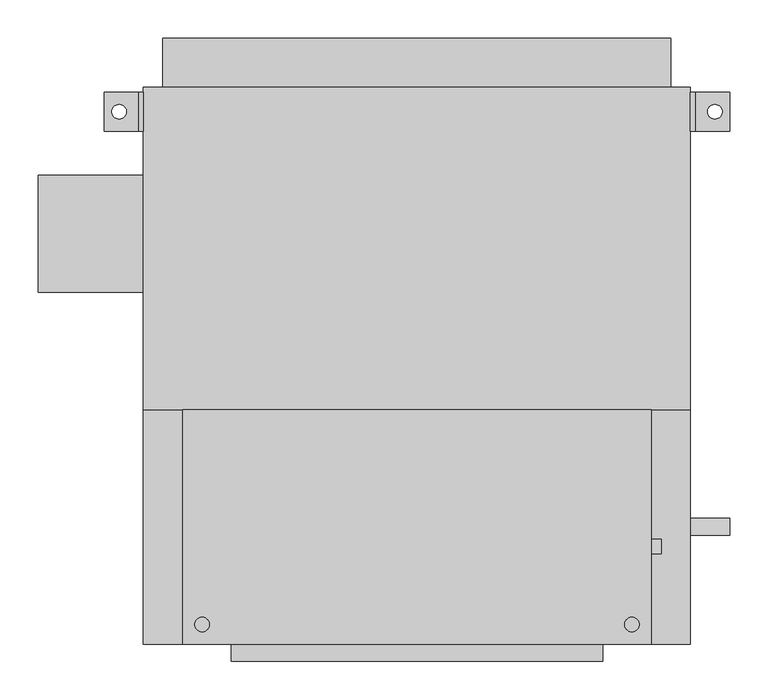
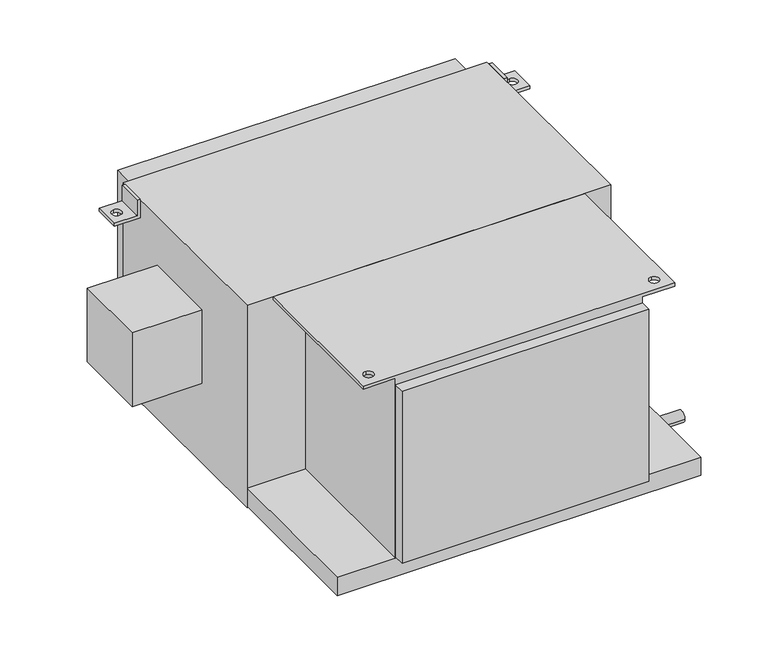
"""IFC4 building model written with IfcOpenShell, lengths in millimetres: proxy geometry, Concealed_High_Capacity_Horizontal_Fan_Coil_Unit_With_Plenum_-_42DCA_-_CARRIER_-_2-Pipe_Cool-EHeat_RH_2022 : Size 08 - 277v/60Hz/1Ph - 6 Row 6.0kW."""

from ifc_helpers import new_model, si_unit, point, frame, frame_2d, origin, place, context, project, spatial, polyline, circle_curve, trimmed, segment, composite_curve, outline, extrude, source, transform, mapped, element, save
from ifc_brep_helpers import plane_surface, revolved_surface, advanced_brep


def mechanical_equipment_869e3af7(model_context):
    return source(origin(), model_context, "Body", "SolidModel", [
        advanced_brep(
        [(-203.2, 327.025, -38.1), (-254.0, 327.025, -38.1), (-254.0, 327.025, -31.75), (-209.55, 327.025, -31.75), (-209.55, 327.025, 0.0), (-203.2, 327.025, 0.0), (-203.2, 276.225, -38.1), (-203.2, 276.225, 0.0), (-209.55, 276.225, 0.0), (-209.55, 276.225, -31.75), (-254.0, 276.225, -31.75), (-254.0, 276.225, -38.1), (-234.95, 292.1, -38.1), (-234.95, 311.15, -38.1), (-234.95, 311.15, -31.75), (-234.95, 292.1, -31.75)],
        [
            (0, 1),
            (1, 2),
            (2, 3),
            (3, 4),
            (4, 5),
            (5, 0),
            (6, 7),
            (7, 8),
            (8, 9),
            (9, 10),
            (10, 11),
            (11, 6),
            (0, 6),
            (11, 1),
            (12, 13, circle_curve(frame((-234.95, 301.625, -38.1), z_axis=(0.0, 0.0, 1.0), x_axis=(0.0, -1.0, 0.0)), 9.525)),
            (13, 12, circle_curve(frame((-234.95, 301.625, -38.1), z_axis=(0.0, 0.0, 1.0), x_axis=(0.0, -1.0, 0.0)), 9.525)),
            (10, 2),
            (9, 3),
            (14, 15, circle_curve(frame((-234.95, 301.625, -31.75), z_axis=(0.0, 0.0, -1.0), x_axis=(0.0, -1.0, 0.0)), 9.525)),
            (15, 14, circle_curve(frame((-234.95, 301.625, -31.75), z_axis=(0.0, 0.0, -1.0), x_axis=(0.0, -1.0, 0.0)), 9.525)),
            (8, 4),
            (7, 5),
            (14, 13),
            (12, 15),
        ],
        [
            plane_surface(frame((-203.2, 327.025, -38.1), z_axis=(0.0, 1.0, 0.0), x_axis=(-1.0, 0.0, 0.0))),
            plane_surface(frame((-203.2, 276.225, -38.1), z_axis=(0.0, -1.0, 0.0), x_axis=(1.0, 0.0, 0.0))),
            plane_surface(frame((-203.2, 327.025, -38.1), z_axis=(0.0, 0.0, -1.0), x_axis=(0.0, -1.0, 0.0))),
            plane_surface(frame((-254.0, 327.025, -38.1), z_axis=(-1.0, 0.0, 0.0), x_axis=(0.0, -1.0, 0.0))),
            plane_surface(frame((-254.0, 327.025, -31.75), z_axis=(0.0, 0.0, 1.0), x_axis=(0.0, -1.0, 0.0))),
            plane_surface(frame((-209.55, 327.025, -31.75), z_axis=(-1.0, 0.0, 0.0), x_axis=(0.0, -1.0, 0.0))),
            plane_surface(frame((-209.55, 327.025, 0.0), z_axis=(0.0, 0.0, 1.0), x_axis=(0.0, -1.0, 0.0))),
            plane_surface(frame((-203.2, 327.025, 0.0), z_axis=(1.0, 0.0, 0.0), x_axis=(0.0, -1.0, 0.0))),
            revolved_surface(polyline([(-234.95, 292.1, -38.1), (-234.95, 292.1, -31.75)]), (-234.95, 301.625, -31.75), (0.0, 0.0, -1.0)),
        ],
        [
            (0, [[1, 2, 3, 4, 5, 6]]),
            (1, [[7, 8, 9, 10, 11, 12]]),
            (2, [[-1, 13, -12, 14], [15, 16]]),
            (3, [[-2, -14, -11, 17]]),
            (4, [[-3, -17, -10, 18], [19, 20]]),
            (5, [[-4, -18, -9, 21]]),
            (6, [[-5, -21, -8, 22]]),
            (7, [[-6, -22, -7, -13]]),
            (8, [[23, -15, 24, -19]]),
            (8, [[-23, -20, -24, -16]]),
        ],
    ),
        advanced_brep(
        [(508.0, 327.025, -38.1), (508.0, 327.025, 0.0), (514.35, 327.025, 0.0), (514.35, 327.025, -31.75), (558.8, 327.025, -31.75), (558.8, 327.025, -38.1), (508.0, 276.225, -38.1), (558.8, 276.225, -38.1), (558.8, 276.225, -31.75), (514.35, 276.225, -31.75), (514.35, 276.225, 0.0), (508.0, 276.225, 0.0), (539.75, 311.15, -31.75), (539.75, 292.1, -31.75), (539.75, 292.1, -38.1), (539.75, 311.15, -38.1)],
        [
            (0, 1),
            (1, 2),
            (2, 3),
            (3, 4),
            (4, 5),
            (5, 0),
            (6, 7),
            (7, 8),
            (8, 9),
            (9, 10),
            (10, 11),
            (11, 6),
            (0, 6),
            (11, 1),
            (10, 2),
            (9, 3),
            (8, 4),
            (12, 13, circle_curve(frame((539.75, 301.625, -31.75), z_axis=(0.0, 0.0, -1.0), x_axis=(0.0, -1.0, 0.0)), 9.525)),
            (13, 12, circle_curve(frame((539.75, 301.625, -31.75), z_axis=(0.0, 0.0, -1.0), x_axis=(0.0, -1.0, 0.0)), 9.525)),
            (7, 5),
            (14, 15, circle_curve(frame((539.75, 301.625, -38.1), z_axis=(0.0, 0.0, 1.0), x_axis=(0.0, -1.0, 0.0)), 9.525)),
            (15, 14, circle_curve(frame((539.75, 301.625, -38.1), z_axis=(0.0, 0.0, 1.0), x_axis=(0.0, -1.0, 0.0)), 9.525)),
            (12, 15),
            (14, 13),
        ],
        [
            plane_surface(frame((-203.2, 327.025, -38.1), z_axis=(0.0, 1.0, 0.0), x_axis=(-1.0, 0.0, 0.0))),
            plane_surface(frame((-203.2, 276.225, -38.1), z_axis=(0.0, -1.0, 0.0), x_axis=(1.0, 0.0, 0.0))),
            plane_surface(frame((508.0, 327.025, -38.1), z_axis=(-1.0, 0.0, 0.0), x_axis=(0.0, -1.0, 0.0))),
            plane_surface(frame((508.0, 327.025, 0.0), z_axis=(0.0, 0.0, 1.0), x_axis=(0.0, -1.0, 0.0))),
            plane_surface(frame((514.35, 327.025, 0.0), z_axis=(1.0, 0.0, 0.0), x_axis=(0.0, -1.0, 0.0))),
            plane_surface(frame((514.35, 327.025, -31.75), z_axis=(0.0, 0.0, 1.0), x_axis=(0.0, -1.0, 0.0))),
            plane_surface(frame((558.8, 327.025, -31.75), z_axis=(1.0, 0.0, 0.0), x_axis=(0.0, -1.0, 0.0))),
            plane_surface(frame((558.8, 327.025, -38.1), z_axis=(0.0, 0.0, -1.0), x_axis=(0.0, -1.0, 0.0))),
            revolved_surface(polyline([(539.75, 292.1, -38.1), (539.75, 292.1, -31.75)]), (539.75, 301.625, -31.75), (0.0, 0.0, -1.0)),
        ],
        [
            (0, [[1, 2, 3, 4, 5, 6]]),
            (1, [[7, 8, 9, 10, 11, 12]]),
            (2, [[-1, 13, -12, 14]]),
            (3, [[-2, -14, -11, 15]]),
            (4, [[-3, -15, -10, 16]]),
            (5, [[-4, -16, -9, 17], [18, 19]]),
            (6, [[-5, -17, -8, 20]]),
            (7, [[-6, -20, -7, -13], [21, 22]]),
            (8, [[23, -21, 24, -18]]),
            (8, [[-23, -19, -24, -22]]),
        ],
    ),
        advanced_brep(
        [(393.7, -85.725, -377.825), (393.7, -390.525, -377.825), (-88.9, -390.525, -377.825), (-88.9, -85.725, -377.825), (-88.9, -390.525, -6.35), (-88.9, -85.725, -6.35), (393.7, -85.725, -6.35), (393.7, -390.525, -6.35), (-152.4, -85.725, -6.35), (-152.4, -390.525, -6.35), (-127.0, -355.6, -6.35), (-127.0, -374.65, -6.35), (457.2, -85.725, -6.35), (457.2, -390.525, -6.35), (431.8, -355.6, -6.35), (431.8, -374.65, -6.35), (-152.4, -85.725, 0.0), (-152.4, -390.525, 0.0), (457.2, -390.525, 0.0), (457.2, -85.725, 0.0), (-127.0, -374.65, 0.0), (-127.0, -355.6, 0.0), (431.8, -374.65, 0.0), (431.8, -355.6, 0.0)],
        [
            (0, 1),
            (1, 2),
            (2, 3),
            (3, 0),
            (2, 4),
            (4, 5),
            (5, 3),
            (0, 6),
            (6, 7),
            (7, 1),
            (8, 5),
            (4, 9),
            (9, 8),
            (10, 11, circle_curve(frame((-127.0, -365.125, -6.35), z_axis=(0.0, 0.0, 1.0), x_axis=(0.0, 1.0, 0.0)), 9.525)),
            (11, 10, circle_curve(frame((-127.0, -365.125, -6.35), z_axis=(0.0, 0.0, 1.0), x_axis=(0.0, 1.0, 0.0)), 9.525)),
            (12, 13),
            (13, 7),
            (6, 12),
            (14, 15, circle_curve(frame((431.8, -365.125, -6.35), z_axis=(0.0, 0.0, 1.0), x_axis=(0.0, 1.0, 0.0)), 9.525)),
            (15, 14, circle_curve(frame((431.8, -365.125, -6.35), z_axis=(0.0, 0.0, 1.0), x_axis=(0.0, 1.0, 0.0)), 9.525)),
            (16, 17),
            (17, 18),
            (18, 19),
            (19, 16),
            (20, 21, circle_curve(frame((-127.0, -365.125, 0.0), z_axis=(0.0, 0.0, -1.0), x_axis=(0.0, 1.0, 0.0)), 9.525)),
            (21, 20, circle_curve(frame((-127.0, -365.125, 0.0), z_axis=(0.0, 0.0, -1.0), x_axis=(0.0, 1.0, 0.0)), 9.525)),
            (22, 23, circle_curve(frame((431.8, -365.125, 0.0), z_axis=(0.0, 0.0, -1.0), x_axis=(0.0, 1.0, 0.0)), 9.525)),
            (23, 22, circle_curve(frame((431.8, -365.125, 0.0), z_axis=(0.0, 0.0, -1.0), x_axis=(0.0, 1.0, 0.0)), 9.525)),
            (9, 17),
            (16, 8),
            (13, 18),
            (19, 12),
            (20, 11),
            (10, 21),
            (22, 15),
            (14, 23),
        ],
        [
            plane_surface(frame((-88.9, -85.725, -377.825), z_axis=(0.0, 0.0, -1.0), x_axis=(1.0, 0.0, 0.0))),
            plane_surface(frame((-88.9, -85.725, 0.0), z_axis=(-1.0, 0.0, 0.0), x_axis=(0.0, 0.0, -1.0))),
            plane_surface(frame((393.7, -390.525, 0.0), z_axis=(1.0, 0.0, 0.0), x_axis=(0.0, 0.0, -1.0))),
            plane_surface(frame((-152.4, -85.725, -6.35), z_axis=(0.0, 0.0, -1.0), x_axis=(0.0, 1.0, 0.0))),
            plane_surface(frame((-152.4, -85.725, 0.0), z_axis=(0.0, 0.0, 1.0), x_axis=(0.0, -1.0, 0.0))),
            plane_surface(frame((-152.4, -85.725, 0.0), z_axis=(-1.0, 0.0, 0.0), x_axis=(0.0, 0.0, -1.0))),
            plane_surface(frame((-152.4, -390.525, 0.0), z_axis=(0.0, -1.0, 0.0), x_axis=(0.0, 0.0, -1.0))),
            plane_surface(frame((-88.9, -85.725, 0.0), z_axis=(0.0, 1.0, 0.0), x_axis=(0.0, 0.0, -1.0))),
            plane_surface(frame((457.2, -390.525, 0.0), z_axis=(1.0, 0.0, 0.0), x_axis=(0.0, 0.0, -1.0))),
            revolved_surface(polyline([(-127.0, -355.6, -6.35), (-127.0, -355.6, 0.0)]), (-127.0, -365.125, 0.0), (0.0, 0.0, -1.0)),
            revolved_surface(polyline([(431.8, -355.6, -6.35), (431.8, -355.6, 0.0)]), (431.8, -365.125, 0.0), (0.0, 0.0, -1.0)),
        ],
        [
            (0, [[1, 2, 3, 4]]),
            (1, [[-3, 5, 6, 7]]),
            (2, [[-1, 8, 9, 10]]),
            (3, [[11, -6, 12, 13], [14, 15]]),
            (3, [[16, 17, -9, 18], [19, 20]]),
            (4, [[21, 22, 23, 24], [25, 26], [27, 28]]),
            (5, [[-13, 29, -21, 30]]),
            (6, [[-12, -5, -2, -10, -17, 31, -22, -29]]),
            (7, [[-11, -30, -24, 32, -18, -8, -4, -7]]),
            (8, [[-16, -32, -23, -31]]),
            (9, [[33, -14, 34, -25]]),
            (9, [[-33, -26, -34, -15]]),
            (10, [[35, -19, 36, -27]]),
            (10, [[-35, -28, -36, -20]]),
        ],
    ),
        extrude(outline(polyline([(-177.8, 396.875), (482.6, 396.875), (482.6, 333.375), (-177.8, 333.375), (-177.8, 396.875)])), frame((0.0, 0.0, -381.0), z_axis=(0.0, 0.0, 1.0), x_axis=(1.0, 0.0, 0.0)), (0.0, 0.0, 1.0), 358.775),
        extrude(outline(composite_curve([segment(trimmed(circle_curve(frame_2d((-263.525, -76.2)), 9.525), [point((-254.0, -76.2))], [point((-273.05, -76.2))], False, "CARTESIAN"), True, "CONTINUOUS"), segment(trimmed(circle_curve(frame_2d((-263.525, -76.2)), 9.525), [point((-273.05, -76.2))], [point((-254.0, -76.2))], False, "CARTESIAN"), True, "CONTINUOUS")], self_intersect=False)), frame((393.7, 0.0, 0.0), z_axis=(1.0, 0.0, 0.0), x_axis=(0.0, 1.0, 0.0)), (0.0, 0.0, 1.0), 76.2),
        extrude(outline(composite_curve([segment(trimmed(circle_curve(frame_2d((-263.525, -301.625)), 9.525), [point((-254.0, -301.625))], [point((-273.05, -301.625))], False, "CARTESIAN"), True, "CONTINUOUS"), segment(trimmed(circle_curve(frame_2d((-263.525, -301.625)), 9.525), [point((-273.05, -301.625))], [point((-254.0, -301.625))], False, "CARTESIAN"), True, "CONTINUOUS")], self_intersect=False)), frame((393.7, 0.0, 0.0), z_axis=(1.0, 0.0, 0.0), x_axis=(0.0, 1.0, 0.0)), (0.0, 0.0, 1.0), 76.2),
        extrude(outline(composite_curve([segment(trimmed(circle_curve(frame_2d((-238.125, -403.225)), 11.1125), [point((-227.0125, -403.225))], [point((-249.2375, -403.225))], False, "CARTESIAN"), True, "CONTINUOUS"), segment(trimmed(circle_curve(frame_2d((-238.125, -403.225)), 11.1125), [point((-249.2375, -403.225))], [point((-227.0125, -403.225))], False, "CARTESIAN"), True, "CONTINUOUS")], self_intersect=False)), frame((508.0, 0.0, 0.0), z_axis=(1.0, 0.0, 0.0), x_axis=(0.0, 1.0, 0.0)), (0.0, 0.0, 1.0), 50.8),
        extrude(outline(polyline([(-339.725, 66.675), (-339.725, 219.075), (-203.2, 219.075), (-203.2, 66.675), (-339.725, 66.675)])), frame((0.0, 0.0, -254.0), z_axis=(0.0, 0.0, 1.0), x_axis=(1.0, 0.0, 0.0)), (0.0, 0.0, 1.0), 152.4),
        extrude(outline(polyline([(393.7, -412.75), (-88.9, -412.75), (-88.9, -390.525), (393.7, -390.525), (393.7, -412.75)])), frame((0.0, 0.0, -374.65), z_axis=(0.0, 0.0, 1.0), x_axis=(1.0, 0.0, 0.0)), (0.0, 0.0, 1.0), 355.6),
        extrude(outline(polyline([(508.0, -85.725), (-203.2, -85.725), (-203.2, 333.375), (508.0, 333.375), (508.0, -85.725)])), frame((0.0, 0.0, -419.1), z_axis=(0.0, 0.0, 1.0), x_axis=(1.0, 0.0, 0.0)), (0.0, 0.0, 1.0), 419.1),
        extrude(outline(polyline([(508.0, -85.725), (508.0, -390.525), (-203.2, -390.525), (-203.2, -85.725), (508.0, -85.725)])), frame((0.0, 0.0, -415.925), z_axis=(0.0, 0.0, 1.0), x_axis=(1.0, 0.0, 0.0)), (0.0, 0.0, 1.0), 38.1),
    ])


if __name__ == "__main__":
    model = new_model("IFC4")
    model_context = context("Model", 3, world=origin())
    ifc_project = project(units=[si_unit("LENGTHUNIT", "METRE", prefix="MILLI")], contexts=[model_context])
    site = spatial("IfcSite", under=ifc_project)
    building = spatial("IfcBuilding", under=site)
    placement = place(None, origin())
    mechanical_equipment_shape = mechanical_equipment_869e3af7(model_context)
    element("IfcBuildingElementProxy", 1, Name="Concealed_High_Capacity_Horizontal_Fan_Coil_Unit_With_Plenum_-_42DCA_-_CARRIER_-_2-Pipe_Cool-EHeat_RH_2022 : Size 08 - 277v/60Hz/1Ph - 6 Row 6.0kW", ObjectType="Concealed_High_Capacity_Horizontal_Fan_Coil_Unit_With_Plenum_-_42DCA_-_CARRIER_-_2-Pipe_Cool-EHeat_RH_2022 : Size 08 - 277v/60Hz/1Ph - 6 Row 6.0kW", at=placement, inside=building, context=model_context, shape_type="MappedRepresentation", body=[
        mapped(mechanical_equipment_shape, transform((0.0, 0.0, 0.0), x_axis=(1.0, 0.0, 0.0), y_axis=(0.0, 1.0, 0.0), z_axis=(0.0, 0.0, 1.0))),
    ])
    save(model, "model.ifc")
